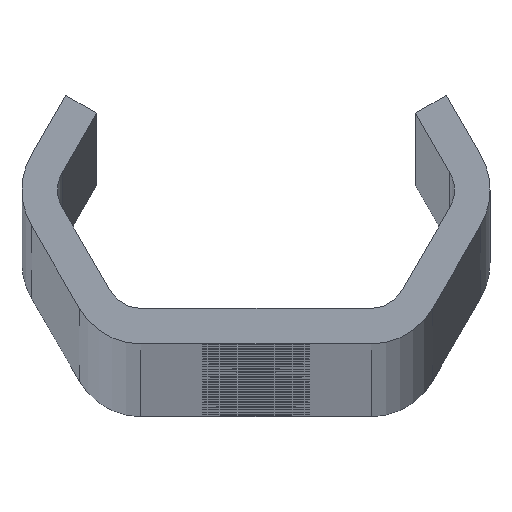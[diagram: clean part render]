
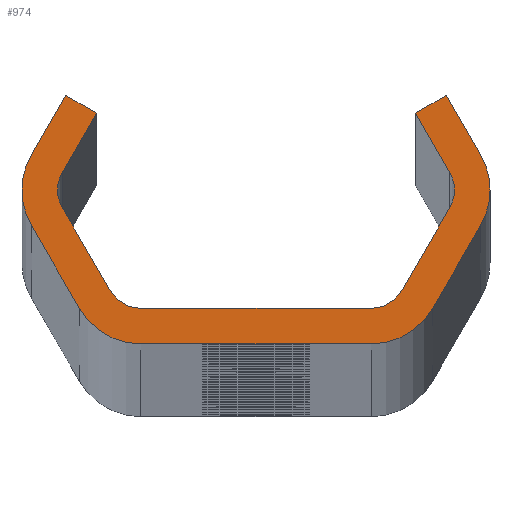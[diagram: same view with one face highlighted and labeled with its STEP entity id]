
A CAD part, top view. The second image highlights one B-rep face of the part: STEP entity #974.
In plain terms, the highlighted planar face has unit normal (0, 0, 1).
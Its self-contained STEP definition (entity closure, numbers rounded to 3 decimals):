
#974=ADVANCED_FACE('NONE',(#2732),#2733,.F.);
#2732=FACE_OUTER_BOUND('',#8956,.T.);
#2733=PLANE('',#8957);
#8956=EDGE_LOOP('',(#18180,#18181,#18182,#18183,#18184,#18185,#18186,#18187,#18188,#18189,#18190,#18191,#18192,#18193,#18194,#18195,#18196,#18197,#18198,#18199,#18200,#18201,#18202,#18203));
#8957=AXIS2_PLACEMENT_3D('',#18204,#18205,#18206);
#18180=ORIENTED_EDGE('',*,*,#24269,.T.);
#18181=ORIENTED_EDGE('',*,*,#24324,.T.);
#18182=ORIENTED_EDGE('',*,*,#23772,.T.);
#18183=ORIENTED_EDGE('',*,*,#24271,.T.);
#18184=ORIENTED_EDGE('',*,*,#24325,.T.);
#18185=ORIENTED_EDGE('',*,*,#24275,.T.);
#18186=ORIENTED_EDGE('',*,*,#24326,.T.);
#18187=ORIENTED_EDGE('',*,*,#23779,.T.);
#18188=ORIENTED_EDGE('',*,*,#24327,.T.);
#18189=ORIENTED_EDGE('',*,*,#23325,.T.);
#18190=ORIENTED_EDGE('',*,*,#23782,.T.);
#18191=ORIENTED_EDGE('',*,*,#23788,.T.);
#18192=ORIENTED_EDGE('',*,*,#23791,.T.);
#18193=ORIENTED_EDGE('',*,*,#23769,.T.);
#18194=ORIENTED_EDGE('',*,*,#24328,.T.);
#18195=ORIENTED_EDGE('',*,*,#23793,.T.);
#18196=ORIENTED_EDGE('',*,*,#24329,.T.);
#18197=ORIENTED_EDGE('',*,*,#23800,.T.);
#18198=ORIENTED_EDGE('',*,*,#24330,.T.);
#18199=ORIENTED_EDGE('',*,*,#24256,.T.);
#18200=ORIENTED_EDGE('',*,*,#24331,.T.);
#18201=ORIENTED_EDGE('',*,*,#23320,.T.);
#18202=ORIENTED_EDGE('',*,*,#24259,.T.);
#18203=ORIENTED_EDGE('',*,*,#24265,.T.);
#18204=CARTESIAN_POINT('',(0.0,0.0,3520.0));
#18205=DIRECTION('',(0.0,0.0,-1.0));
#18206=DIRECTION('',(0.0,-1.0,0.0));
#23320=EDGE_CURVE('NONE',#25980,#25984,#25986,.T.);
#23325=EDGE_CURVE('NONE',#25989,#25993,#25995,.T.);
#23769=EDGE_CURVE('NONE',#26794,#26792,#26795,.T.);
#23772=EDGE_CURVE('NONE',#26798,#26799,#26800,.T.);
#23779=EDGE_CURVE('NONE',#26812,#26810,#26813,.T.);
#23782=EDGE_CURVE('NONE',#25993,#26816,#26817,.T.);
#23788=EDGE_CURVE('NONE',#26816,#26824,#26826,.T.);
#23791=EDGE_CURVE('NONE',#26824,#26794,#26829,.T.);
#23793=EDGE_CURVE('NONE',#26831,#26832,#26833,.T.);
#23800=EDGE_CURVE('NONE',#26845,#26843,#26846,.T.);
#24256=EDGE_CURVE('NONE',#27690,#27688,#27691,.T.);
#24259=EDGE_CURVE('NONE',#25984,#27694,#27695,.T.);
#24265=EDGE_CURVE('NONE',#27694,#27702,#27704,.T.);
#24269=EDGE_CURVE('NONE',#27702,#27708,#27710,.T.);
#24271=EDGE_CURVE('NONE',#26799,#27712,#27713,.T.);
#24275=EDGE_CURVE('NONE',#27718,#27719,#27720,.T.);
#24324=EDGE_CURVE('NONE',#27708,#26798,#27771,.T.);
#24325=EDGE_CURVE('NONE',#27712,#27718,#27772,.T.);
#24326=EDGE_CURVE('NONE',#27719,#26812,#27773,.T.);
#24327=EDGE_CURVE('NONE',#26810,#25989,#27774,.T.);
#24328=EDGE_CURVE('NONE',#26792,#26831,#27775,.T.);
#24329=EDGE_CURVE('NONE',#26832,#26845,#27776,.T.);
#24330=EDGE_CURVE('NONE',#26843,#27690,#27777,.T.);
#24331=EDGE_CURVE('NONE',#27688,#25980,#27778,.T.);
#25980=VERTEX_POINT('',#29922);
#25984=VERTEX_POINT('NONE',#29927);
#25986=CIRCLE('',#29930,3.0);
#25989=VERTEX_POINT('',#29933);
#25993=VERTEX_POINT('NONE',#29938);
#25995=CIRCLE('',#29941,6.0);
#26792=VERTEX_POINT('NONE',#34676);
#26794=VERTEX_POINT('NONE',#34679);
#26795=CIRCLE('',#34680,3.0);
#26798=VERTEX_POINT('NONE',#34684);
#26799=VERTEX_POINT('NONE',#34685);
#26800=CIRCLE('',#34686,6.0);
#26810=VERTEX_POINT('NONE',#34699);
#26812=VERTEX_POINT('NONE',#34702);
#26813=LINE('',#34703,#34704);
#26816=VERTEX_POINT('NONE',#34708);
#26817=LINE('',#34709,#34710);
#26824=VERTEX_POINT('NONE',#34720);
#26826=LINE('',#34723,#34724);
#26829=LINE('',#34728,#34729);
#26831=VERTEX_POINT('NONE',#34731);
#26832=VERTEX_POINT('NONE',#34732);
#26833=LINE('',#34733,#34734);
#26843=VERTEX_POINT('NONE',#34748);
#26845=VERTEX_POINT('NONE',#34751);
#26846=LINE('',#34752,#34753);
#27688=VERTEX_POINT('NONE',#37797);
#27690=VERTEX_POINT('NONE',#37800);
#27691=LINE('',#37801,#37802);
#27694=VERTEX_POINT('NONE',#37806);
#27695=LINE('',#37807,#37808);
#27702=VERTEX_POINT('NONE',#37818);
#27704=LINE('',#37821,#37822);
#27708=VERTEX_POINT('NONE',#37827);
#27710=LINE('',#37830,#37831);
#27712=VERTEX_POINT('NONE',#37833);
#27713=LINE('',#37834,#37835);
#27718=VERTEX_POINT('NONE',#37842);
#27719=VERTEX_POINT('NONE',#37843);
#27720=LINE('',#37844,#37845);
#27771=CIRCLE('',#37899,6.0);
#27772=CIRCLE('',#37900,6.0);
#27773=CIRCLE('',#37901,6.0);
#27774=CIRCLE('',#37902,6.0);
#27775=CIRCLE('',#37903,3.0);
#27776=CIRCLE('',#37904,3.0);
#27777=CIRCLE('',#37905,3.0);
#27778=CIRCLE('',#37906,3.0);
#29922=CARTESIAN_POINT('',(-16.764,0.,3520.0));
#29927=CARTESIAN_POINT('',(-16.362,1.5,3520.0));
#29930=AXIS2_PLACEMENT_3D('',#45003,#45004,#45005);
#29933=CARTESIAN_POINT('',(19.764,0.,3520.0));
#29938=CARTESIAN_POINT('',(18.96,3.,3520.0));
#29941=AXIS2_PLACEMENT_3D('',#45011,#45012,#45013);
#34676=CARTESIAN_POINT('',(16.764,0.,3520.0));
#34679=CARTESIAN_POINT('',(16.362,1.5,3520.0));
#34680=AXIS2_PLACEMENT_3D('',#45458,#45459,#45460);
#34684=CARTESIAN_POINT('',(-19.764,0.,3520.0));
#34685=CARTESIAN_POINT('',(-18.96,-3.,3520.0));
#34686=AXIS2_PLACEMENT_3D('',#45462,#45463,#45464);
#34699=CARTESIAN_POINT('',(18.96,-3.,3520.0));
#34702=CARTESIAN_POINT('',(14.919,-10.,3520.0));
#34703=CARTESIAN_POINT('',(20.692,0.,3520.0));
#34704=VECTOR('',#45472,1000.0);
#34708=CARTESIAN_POINT('',(16.074,8.,3520.0));
#34709=CARTESIAN_POINT('',(16.074,8.,3520.0));
#34710=VECTOR('',#45474,1000.0);
#34720=CARTESIAN_POINT('',(13.475,6.5,3520.0));
#34723=CARTESIAN_POINT('',(13.475,6.5,3520.0));
#34724=VECTOR('',#45479,1000.0);
#34728=CARTESIAN_POINT('',(17.228,0.,3520.0));
#34729=VECTOR('',#45481,1000.0);
#34731=CARTESIAN_POINT('',(16.362,-1.5,3520.0));
#34732=CARTESIAN_POINT('',(12.321,-8.5,3520.0));
#34733=CARTESIAN_POINT('',(11.455,-10.0,3520.0));
#34734=VECTOR('',#45482,1000.0);
#34748=CARTESIAN_POINT('',(-9.723,-10.0,3520.0));
#34751=CARTESIAN_POINT('',(9.723,-10.0,3520.0));
#34752=CARTESIAN_POINT('',(-11.455,-10.0,3520.0));
#34753=VECTOR('',#45488,1000.0);
#37797=CARTESIAN_POINT('',(-16.362,-1.5,3520.0));
#37800=CARTESIAN_POINT('',(-12.321,-8.5,3520.0));
#37801=CARTESIAN_POINT('',(-17.228,0.,3520.0));
#37802=VECTOR('',#45987,1000.0);
#37806=CARTESIAN_POINT('',(-13.475,6.5,3520.0));
#37807=CARTESIAN_POINT('',(-13.475,6.5,3520.0));
#37808=VECTOR('',#45989,1000.0);
#37818=CARTESIAN_POINT('',(-16.074,8.,3520.0));
#37821=CARTESIAN_POINT('',(-13.475,6.5,3520.0));
#37822=VECTOR('',#45994,1000.0);
#37827=CARTESIAN_POINT('',(-18.96,3.,3520.0));
#37830=CARTESIAN_POINT('',(-16.074,8.,3520.0));
#37831=VECTOR('',#45997,1000.0);
#37833=CARTESIAN_POINT('',(-14.919,-10.,3520.0));
#37834=CARTESIAN_POINT('',(-20.692,0.,3520.0));
#37835=VECTOR('',#45998,1000.0);
#37842=CARTESIAN_POINT('',(-9.723,-13.0,3520.0));
#37843=CARTESIAN_POINT('',(9.723,-13.0,3520.0));
#37844=CARTESIAN_POINT('',(-13.187,-13.0,3520.0));
#37845=VECTOR('',#46001,1000.0);
#37899=AXIS2_PLACEMENT_3D('',#46137,#46138,#46139);
#37900=AXIS2_PLACEMENT_3D('',#46140,#46141,#46142);
#37901=AXIS2_PLACEMENT_3D('',#46143,#46144,#46145);
#37902=AXIS2_PLACEMENT_3D('',#46146,#46147,#46148);
#37903=AXIS2_PLACEMENT_3D('',#46149,#46150,#46151);
#37904=AXIS2_PLACEMENT_3D('',#46152,#46153,#46154);
#37905=AXIS2_PLACEMENT_3D('',#46155,#46156,#46157);
#37906=AXIS2_PLACEMENT_3D('',#46158,#46159,#46160);
#45003=CARTESIAN_POINT('',(-13.764,0.,3520.0));
#45004=DIRECTION('',(0.0,0.0,-1.0));
#45005=DIRECTION('',(-1.0,0.0,0.0));
#45011=CARTESIAN_POINT('',(13.764,0.,3520.0));
#45012=DIRECTION('',(0.0,0.0,1.0));
#45013=DIRECTION('',(-1.0,0.0,0.0));
#45458=CARTESIAN_POINT('',(13.764,0.,3520.0));
#45459=DIRECTION('',(0.0,0.0,-1.0));
#45460=DIRECTION('',(-1.0,0.0,0.0));
#45462=CARTESIAN_POINT('',(-13.764,0.,3520.0));
#45463=DIRECTION('',(0.0,0.0,1.0));
#45464=DIRECTION('',(-1.0,0.0,0.0));
#45472=DIRECTION('',(0.5,0.866,-0.0));
#45474=DIRECTION('',(-0.5,0.866,-0.0));
#45479=DIRECTION('',(-0.866,-0.5,-0.0));
#45481=DIRECTION('',(0.5,-0.866,-0.0));
#45482=DIRECTION('',(-0.5,-0.866,-0.0));
#45488=DIRECTION('',(-1.0,0.,-0.0));
#45987=DIRECTION('',(-0.5,0.866,-0.0));
#45989=DIRECTION('',(0.5,0.866,-0.0));
#45994=DIRECTION('',(-0.866,0.5,0.0));
#45997=DIRECTION('',(-0.5,-0.866,0.0));
#45998=DIRECTION('',(0.5,-0.866,0.0));
#46001=DIRECTION('',(1.0,0.0,0.0));
#46137=CARTESIAN_POINT('',(-13.764,0.,3520.0));
#46138=DIRECTION('',(0.0,0.0,1.0));
#46139=DIRECTION('',(-1.0,0.,0.0));
#46140=CARTESIAN_POINT('',(-9.723,-7.0,3520.0));
#46141=DIRECTION('',(0.0,0.0,1.0));
#46142=DIRECTION('',(-1.0,0.0,0.0));
#46143=CARTESIAN_POINT('',(9.723,-7.0,3520.0));
#46144=DIRECTION('',(0.0,0.0,1.0));
#46145=DIRECTION('',(-1.0,0.,0.0));
#46146=CARTESIAN_POINT('',(13.764,0.,3520.0));
#46147=DIRECTION('',(0.0,0.0,1.0));
#46148=DIRECTION('',(-1.0,0.0,0.0));
#46149=CARTESIAN_POINT('',(13.764,0.,3520.0));
#46150=DIRECTION('',(0.0,0.0,-1.0));
#46151=DIRECTION('',(-1.0,0.0,0.0));
#46152=CARTESIAN_POINT('',(9.723,-7.0,3520.0));
#46153=DIRECTION('',(0.0,0.0,-1.0));
#46154=DIRECTION('',(-1.0,0.0,0.0));
#46155=CARTESIAN_POINT('',(-9.723,-7.0,3520.0));
#46156=DIRECTION('',(0.0,0.0,-1.0));
#46157=DIRECTION('',(-1.0,0.0,0.0));
#46158=CARTESIAN_POINT('',(-13.764,0.,3520.0));
#46159=DIRECTION('',(0.0,0.0,-1.0));
#46160=DIRECTION('',(-1.0,0.0,0.0));
